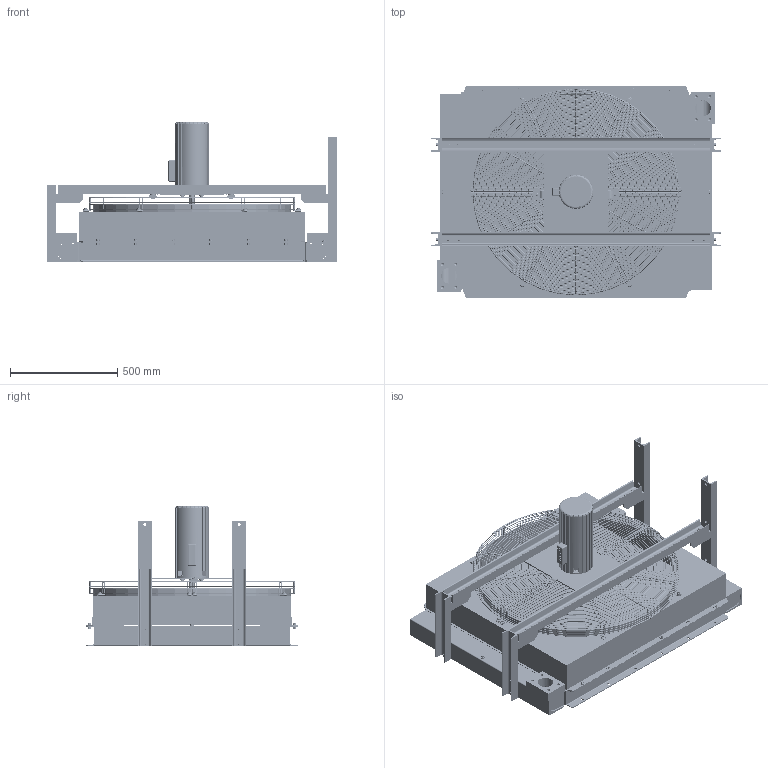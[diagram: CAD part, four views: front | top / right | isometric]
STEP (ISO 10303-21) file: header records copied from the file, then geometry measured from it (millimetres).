
FILE_DESCRIPTION((' '),'1');
FILE_NAME('5209_203_0000.step','2008-08-21 T',(' '),(' '),'STEP Interface v1.0 by CT CoreTechnologie','3D_Evolution v1.0 by CT CoreTechnologie',' ');
FILE_SCHEMA(('AUTOMOTIVE_DESIGN_CC2 { 1 2 10303 214 -1 1 5 2 }'));
Length unit declared in the file: millimetre
Products named in the file (232): 5209_203_0000; 8407_173_2722; 5209_203_5000; Motorplatte; 6030041; 6030042; 6030043; 6030044; 6030045; 6030046; 6030047; 6030048; Sechskantschraube_ISO_4017-M8x30-8_8-A3B; 603504; 6038281; 6038282; 6038283; 6038284; 6038285; 6038286; 6038287; 6038288; 6038289; 60382810; 60382811; 60382812; 60382813; 60382814; 60382815; 60382816; Oberteil1; Oberteil2; Leiste_lang1; Leiste_lang2; Halter1; Halter2; Halter3; Halter4; Unterteil1; Unterteil2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
Assembly tree (315 placements, depth 5):
  5209_203_0000
    8407_173_2722
    5209_203_5000
      Motorplatte
      6030041
      6030042
      6030043
      6030044
      6030045
      6030046
      6030047
      6030048
      Sechskantschraube_ISO_4017-M8x30-8_8-A3B  x8
      603504  x8
      6038281
      6038282
      6038283
      6038284
      6038285
      6038286
      6038287
      6038288
      6038289
      60382810
      60382811
      60382812
      60382813
      60382814
      60382815
      60382816
      Oberteil1
      Oberteil2
      Leiste_lang1
      Leiste_lang2
      Halter1
      Halter2
      Halter3
      Halter4
      Unterteil1
      Unterteil2
    Sechskantschraube_ISO_4017-M6x25-8_8-A3B1
    Sechskantschraube_ISO_4017-M6x25-8_8-A3B2
    603503  x2
    8054_011_00001
    8054_011_00002
    5209_203_0009  x2
    Sechskantschraube_ISO_4017-M8x25-8_8-A3B1
    Sechskantschraube_ISO_4017-M8x25-8_8-A3B2
    Sechskantschraube_ISO_4017-M8x25-8_8-A3B3
    Sechskantschraube_ISO_4017-M8x25-8_8-A3B4
    Sechskantschraube_ISO_4017-M8x25-8_8-A3B5
    Sechskantschraube_ISO_4017-M8x25-8_8-A3B6
    Sechskantschraube_ISO_4017-M8x25-8_8-A3B7
    Sechskantschraube_ISO_4017-M8x25-8_8-A3B8
    Sechskantschraube_ISO_4017-M8x25-8_8-A3B9
    Sechskantschraube_ISO_4017-M8x25-8_8-A3B10
    Sechskantschraube_ISO_4017-M8x25-8_8-A3B11
    Sechskantschraube_ISO_4017-M8x25-8_8-A3B12
    Sechskantschraube_ISO_4017-M8x25-8_8-A3B13
    Sechskantschraube_ISO_4017-M8x25-8_8-A3B14
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Bounding box: 1354 x 986.66 x 650 mm (x, y, z)
Volume: 112524649 mm3; surface area: 9959573.9 mm2
Topology: 314 solids, 314 shells, 6244 faces, 15020 edges, 9714 vertices
Faces by surface type: plane 3378, cylinder 1178, torus 764, cone 466, bspline 454, sphere 4
Entity records: 201882 total; most frequent: CARTESIAN_POINT 44089, DIRECTION 22969, ORIENTED_EDGE 22744, EDGE_CURVE 11372, AXIS2_PLACEMENT_3D 8215, VERTEX_POINT 7338, VECTOR 6539, LINE 6539
